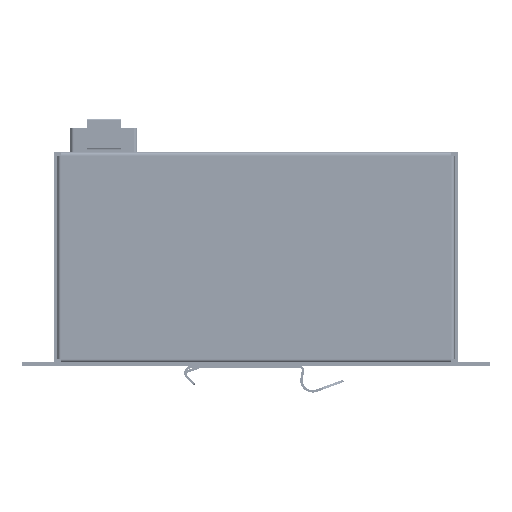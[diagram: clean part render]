
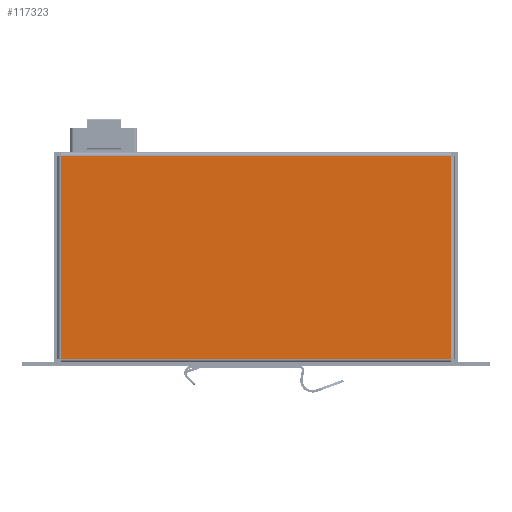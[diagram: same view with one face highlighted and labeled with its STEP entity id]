
A CAD part, front view. The second image highlights one B-rep face of the part: STEP entity #117323.
In plain terms, the highlighted planar face has unit normal (0, -1, 0).
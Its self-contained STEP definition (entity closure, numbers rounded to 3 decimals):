
#4401=PLANE('',#125325);
#11410=FACE_OUTER_BOUND('',#17969,.T.);
#17969=EDGE_LOOP('',(#97334,#97335,#97336,#97337));
#28353=LINE('',#196586,#41922);
#28366=LINE('',#196621,#41935);
#28371=LINE('',#196641,#41940);
#28381=LINE('',#196670,#41950);
#41922=VECTOR('',#146464,10.);
#41935=VECTOR('',#146507,10.);
#41940=VECTOR('',#146534,10.);
#41950=VECTOR('',#146578,10.);
#57176=VERTEX_POINT('',#196583);
#57177=VERTEX_POINT('',#196585);
#57184=VERTEX_POINT('',#196620);
#57188=VERTEX_POINT('',#196639);
#71614=EDGE_CURVE('',#57177,#57176,#28353,.T.);
#71632=EDGE_CURVE('',#57184,#57177,#28366,.T.);
#71643=EDGE_CURVE('',#57176,#57188,#28371,.T.);
#71658=EDGE_CURVE('',#57188,#57184,#28381,.T.);
#97334=ORIENTED_EDGE('',*,*,#71614,.T.);
#97335=ORIENTED_EDGE('',*,*,#71643,.T.);
#97336=ORIENTED_EDGE('',*,*,#71658,.T.);
#97337=ORIENTED_EDGE('',*,*,#71632,.T.);
#117323=ADVANCED_FACE('',(#11410),#4401,.F.);
#125325=AXIS2_PLACEMENT_3D('',#196676,#146585,#146586);
#146464=DIRECTION('',(1.,0.,0.));
#146507=DIRECTION('',(0.,0.,-1.));
#146534=DIRECTION('',(0.,0.,1.));
#146578=DIRECTION('',(-1.,0.,0.));
#146585=DIRECTION('center_axis',(0.,1.,0.));
#146586=DIRECTION('ref_axis',(1.,0.,0.));
#196583=CARTESIAN_POINT('',(115.89,-5.5,-60.94));
#196585=CARTESIAN_POINT('',(-2.89,-5.5,-60.94));
#196586=CARTESIAN_POINT('',(86.195,-5.5,-60.94));
#196620=CARTESIAN_POINT('',(-2.89,-5.5,0.94));
#196621=CARTESIAN_POINT('',(-2.89,-5.5,-45.975));
#196639=CARTESIAN_POINT('',(115.89,-5.5,0.94));
#196641=CARTESIAN_POINT('',(115.89,-5.5,-14.53));
#196670=CARTESIAN_POINT('',(26.3,-5.5,0.94));
#196676=CARTESIAN_POINT('Origin',(56.5,-5.5,-30.));
